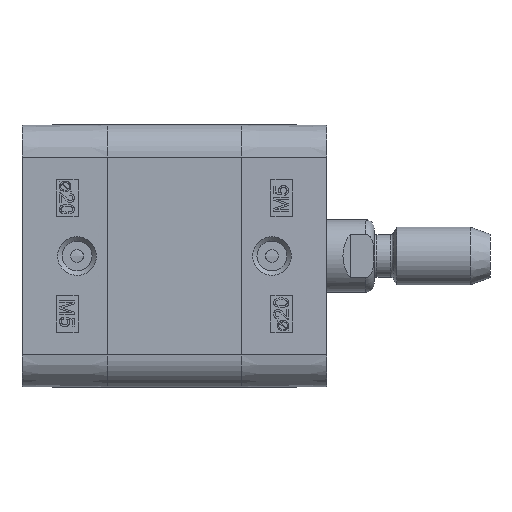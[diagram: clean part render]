
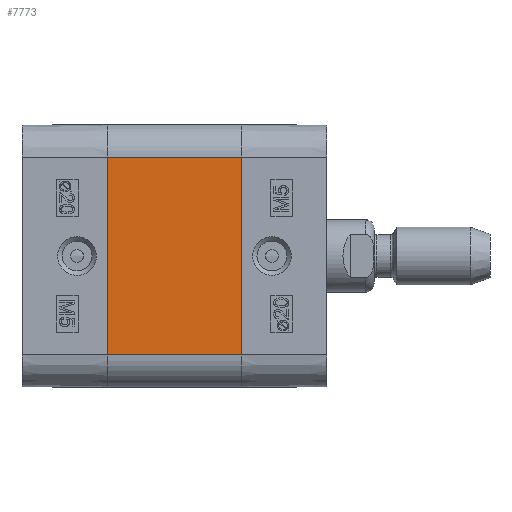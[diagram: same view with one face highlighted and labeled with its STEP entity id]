
A CAD part, left-side view. The second image highlights one B-rep face of the part: STEP entity #7773.
In plain terms, the highlighted planar face has unit normal (-1, 0, 0).
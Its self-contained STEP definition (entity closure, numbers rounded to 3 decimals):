
#6294=CARTESIAN_POINT('',(-18.15,-18.5,13.65));
#6295=VERTEX_POINT('',#6294);
#6302=CARTESIAN_POINT('',(-18.15,-18.5,-13.65));
#6303=VERTEX_POINT('',#6302);
#6304=CARTESIAN_POINT('',(-18.15,-18.5,-13.65));
#6305=DIRECTION('',(0.0,0.0,1.0));
#6306=VECTOR('',#6305,27.3);
#6307=LINE('',#6304,#6306);
#6308=EDGE_CURVE('',#6303,#6295,#6307,.T.);
#7731=CARTESIAN_POINT('',(-18.15,0.0,-13.65));
#7732=VERTEX_POINT('',#7731);
#7733=CARTESIAN_POINT('',(-18.15,0.0,-13.65));
#7734=DIRECTION('',(0.0,-1.0,0.0));
#7735=VECTOR('',#7734,18.5);
#7736=LINE('',#7733,#7735);
#7737=EDGE_CURVE('',#7732,#6303,#7736,.T.);
#7750=CARTESIAN_POINT('',(-18.15,0.0,-13.65));
#7751=DIRECTION('',(-1.0,0.0,0.0));
#7752=DIRECTION('',(0.0,0.0,1.0));
#7753=AXIS2_PLACEMENT_3D('',#7750,#7751,#7752);
#7754=PLANE('',#7753);
#7755=ORIENTED_EDGE('',*,*,#6308,.T.);
#7756=CARTESIAN_POINT('',(-18.15,0.0,13.65));
#7757=VERTEX_POINT('',#7756);
#7758=CARTESIAN_POINT('',(-18.15,0.0,13.65));
#7759=DIRECTION('',(0.0,-1.0,0.0));
#7760=VECTOR('',#7759,18.5);
#7761=LINE('',#7758,#7760);
#7762=EDGE_CURVE('',#7757,#6295,#7761,.T.);
#7763=ORIENTED_EDGE('',*,*,#7762,.F.);
#7764=CARTESIAN_POINT('',(-18.15,0.0,-13.65));
#7765=DIRECTION('',(0.0,0.0,1.0));
#7766=VECTOR('',#7765,27.3);
#7767=LINE('',#7764,#7766);
#7768=EDGE_CURVE('',#7732,#7757,#7767,.T.);
#7769=ORIENTED_EDGE('',*,*,#7768,.F.);
#7770=ORIENTED_EDGE('',*,*,#7737,.T.);
#7771=EDGE_LOOP('',(#7755,#7763,#7769,#7770));
#7772=FACE_OUTER_BOUND('',#7771,.T.);
#7773=ADVANCED_FACE('',(#7772),#7754,.T.);
